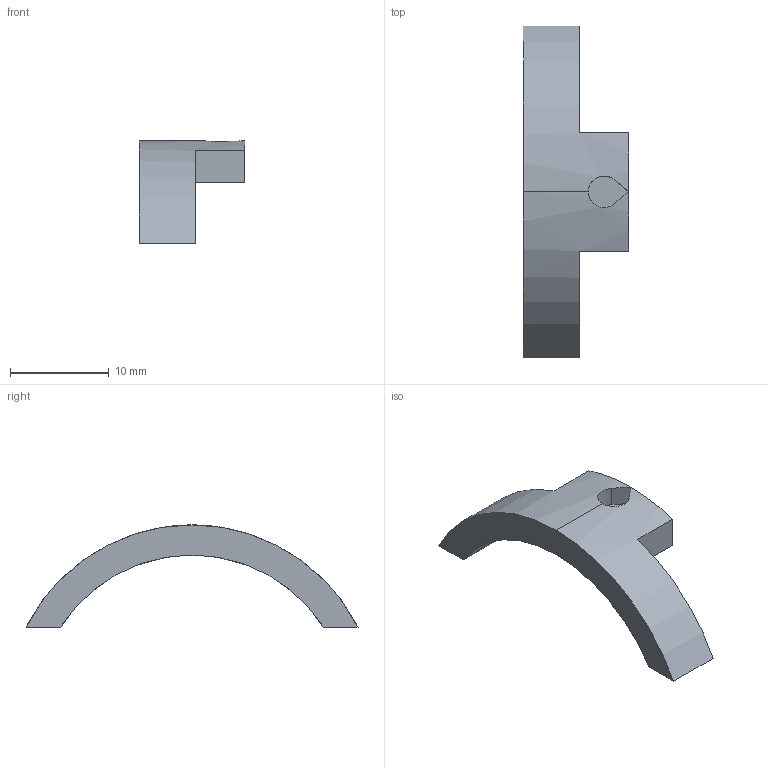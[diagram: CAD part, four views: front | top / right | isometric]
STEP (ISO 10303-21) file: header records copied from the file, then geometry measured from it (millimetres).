
FILE_DESCRIPTION(('SkyG Speed 90B - revision C6B-1 - 2026-10-07','HL1-hatch-lip-front'),'2;1');
FILE_NAME('HL1-hatch-lip-front_C6B-1','2026-10-07T21:43:16',('Author'),( 'Open CASCADE'),'Open CASCADE STEP processor 7.9','Open CASCADE 7.9' ,'Unknown');
FILE_SCHEMA(('AUTOMOTIVE_DESIGN { 1 0 10303 214 1 1 1 1 }'));
Length unit declared in the file: millimetre
Products named in the file (1): HL1-hatch-lip-front C6B-1
Bounding box: 10.7 x 33.65 x 10.35 mm (x, y, z)
Volume: 806.1 mm3; surface area: 858.7 mm2
Topology: 1 solids, 1 shells, 15 faces, 38 edges, 25 vertices
Faces by surface type: plane 11, cylinder 4
Entity records: 1093 total; most frequent: CARTESIAN_POINT 339, DIRECTION 133, ORIENTED_EDGE 76, PCURVE 76, DEFINITIONAL_REPRESENTATION 76, LINE 62, VECTOR 62, EDGE_CURVE 38
